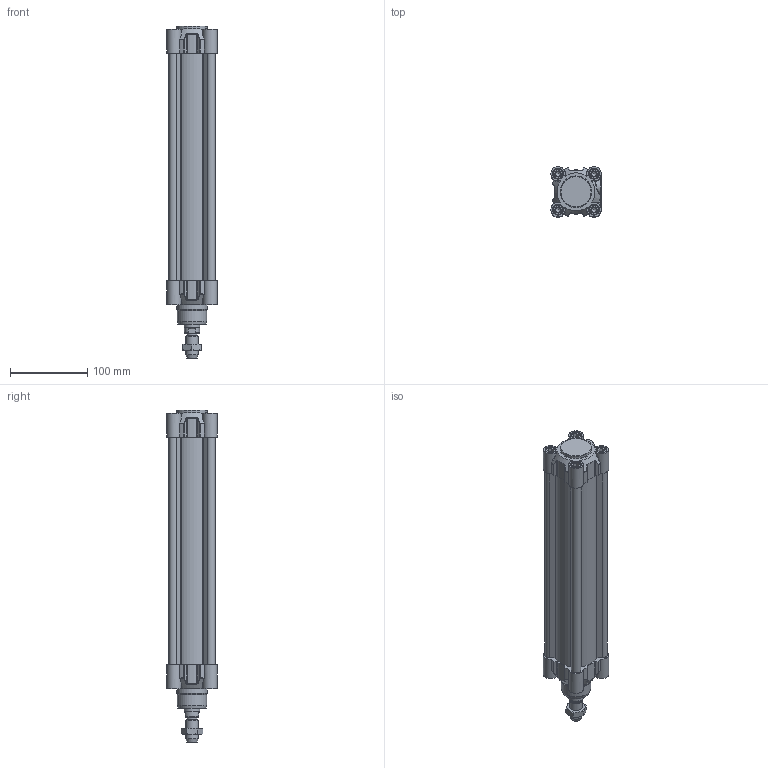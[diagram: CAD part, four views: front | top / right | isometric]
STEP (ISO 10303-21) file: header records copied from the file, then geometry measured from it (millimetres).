
FILE_DESCRIPTION(/* description */ ('Unknown'),/* implementation_level */ '2;1');
FILE_NAME(/* name */ 'HIF 50_250',/* time_stamp */ '2024-08-12T09:18:09+02:00',/* author */ ('Unknown'),/* organization */ ('Unknown'),/* preprocessor_version */ 'ST-DEVELOPER v16.7',/* originating_system */ 'Solid Edge',/* authorisation */ 'Unknown');
FILE_SCHEMA (('AUTOMOTIVE_DESIGN {1 0 10303 214 3 1 1}'));
Length unit declared in the file: millimetre
Products named in the file (6): HIF 50_250; Kit_2; Kit_1; Profilrohr 50_250; Kolbenstange 50_250; Mutter
Assembly tree (5 placements, depth 2):
  HIF 50_250
    Kit_2
    Kit_1
    Profilrohr 50_250
    Kolbenstange 50_250
    Mutter
Bounding box: 64.99 x 64.97 x 429 mm (x, y, z)
Volume: 630862.1 mm3; surface area: 279127.7 mm2
Topology: 5 solids, 19 shells, 1076 faces, 2677 edges, 1691 vertices
Faces by surface type: plane 385, cylinder 377, cone 106, torus 102, bspline 60, sphere 46
Full cylindrical faces by diameter (mm): 1.479 x2, 2.8 x2, 6.647 x16, 8 x8, 8.3 x8, 9 x2, 10 x2, 11.44 x2, 11.445 x2, 13 x8, 13.3 x8, 13.5 x1, 14.376 x1, 16 x1, 19.5 x1, 20 x2, 20.5 x1, 20.8 x1, 20.847 x1, 24 x2, 30 x2, 38 x1, 40 x2, 50 x2
Entity records: 40868 total; most frequent: CARTESIAN_POINT 10033, ORIENTED_EDGE 5152, DIRECTION 4858, EDGE_CURVE 2576, AXIS2_PLACEMENT_3D 1911, VERTEX_POINT 1673, FACE_BOUND 1231, EDGE_LOOP 1223
